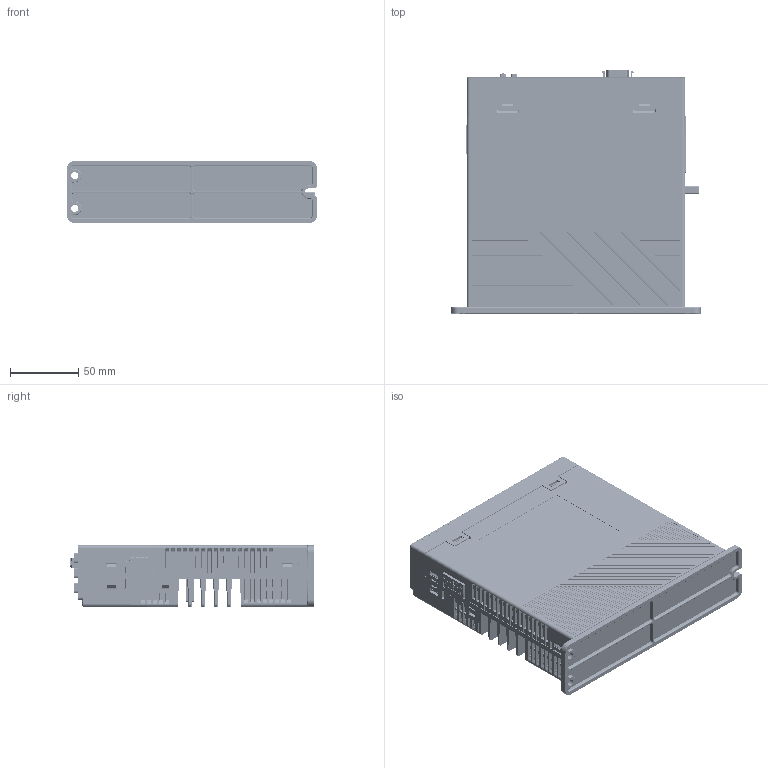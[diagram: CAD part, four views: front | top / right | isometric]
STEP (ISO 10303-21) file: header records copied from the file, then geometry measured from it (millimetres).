
FILE_DESCRIPTION((''),'2;1');
FILE_NAME('BD3E-A-0731_ASM','2023-07-31T',('qiaolun'),(''),'CREO PARAMETRIC BY PTC INC, 2016260','CREO PARAMETRIC BY PTC INC, 2016260','');
FILE_SCHEMA(('CONFIG_CONTROL_DESIGN'));
Products named in the file (18): 002; 003; 004; 006; 007; 008; 009; 005_ASM; 011; USB0600_1_1_1; JACK-T3005008PIN_1_1_1; RJLB-010YA1_7_1_1; RJ21LC-001YA1-LED-TRANSFORMER_3; 15EDGRHCM-THR-3_5-08P-13-00A__2; SCSI-20P_ASM_1_1_1; 010_ASM; 001_ASM; BD3E-A-0731_ASM
Assembly tree (17 placements, depth 4):
  BD3E-A-0731_ASM
    001_ASM
      002
      003
      004
      005_ASM
        006
        007
        008
        009
      010_ASM
        011
        USB0600_1_1_1
        JACK-T3005008PIN_1_1_1
        RJLB-010YA1_7_1_1
        RJ21LC-001YA1-LED-TRANSFORMER_3
        15EDGRHCM-THR-3_5-08P-13-00A__2
        SCSI-20P_ASM_1_1_1
Bounding box: 183 x 178.2 x 45 mm (x, y, z)
Volume: 1442532.3 mm3; surface area: 424905.8 mm2
Topology: 14 solids, 60 shells, 13249 faces, 38489 edges, 25109 vertices
Faces by surface type: plane 9670, cylinder 2685, extrusion 372, cone 287, bspline 140, torus 77, sphere 18
Entity records: 450674 total; most frequent: CARTESIAN_POINT 98430, ORIENTED_EDGE 76930, DIRECTION 68007, EDGE_CURVE 38471, VECTOR 31015, LINE 30643, VERTEX_POINT 25109, AXIS2_PLACEMENT_3D 18496
